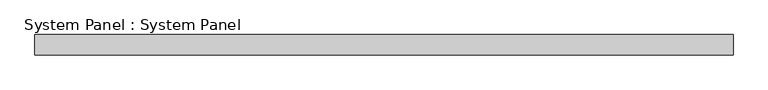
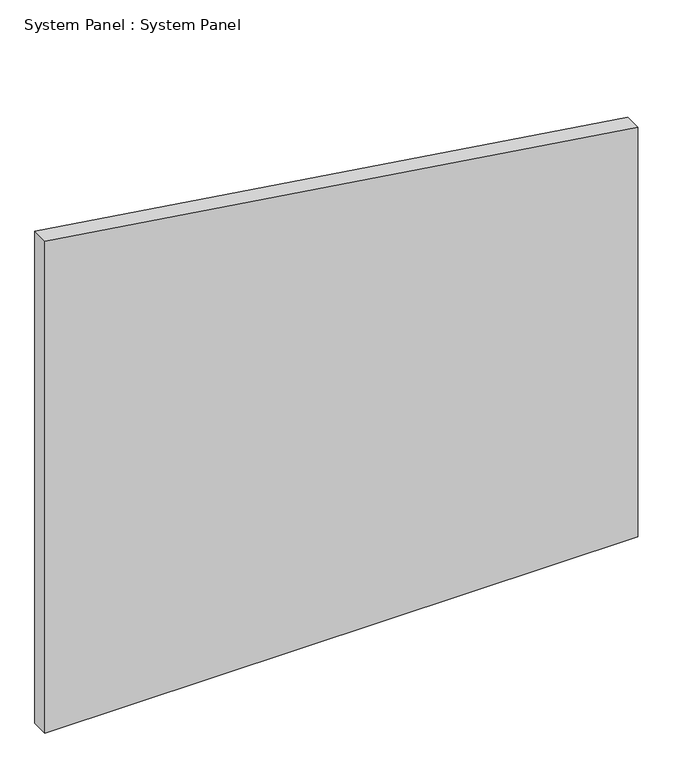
"""IFC4 building model written with IfcOpenShell, lengths in millimetres: plate geometry, System Panel : System Panel."""

from ifc_helpers import new_model, si_unit, frame, origin, place, context, project, spatial, polyline, outline, extrude, source, transform, mapped, element, save


def system_panel_system_panel_3d694e2d(model_context):
    return source(origin(), model_context, "Body", "SweptSolid", [
        extrude(outline(polyline([(0.0, 1735.6576526), (2537.5469636, 1735.6576526), (3046.1828568, -1735.6576526), (0.0, -1735.6576526), (0.0, 1735.6576526)])), frame((0.0, -50.8, 0.0), z_axis=(0.0, 1.0, 0.0), x_axis=(0.0, 0.0, 1.0)), (0.0, 0.0, 1.0), 101.6),
    ])


if __name__ == "__main__":
    model = new_model("IFC4")
    model_context = context("Model", 3, world=origin())
    ifc_project = project(units=[si_unit("LENGTHUNIT", "METRE", prefix="MILLI")], contexts=[model_context])
    site = spatial("IfcSite", under=ifc_project)
    building = spatial("IfcBuilding", under=site)
    placement = place(None, origin())
    system_panel_system_panel_shape = system_panel_system_panel_3d694e2d(model_context)
    element("IfcPlate", 1, ObjectType="System Panel : System Panel", at=placement, inside=building, context=model_context, shape_type="MappedRepresentation", body=[
        mapped(system_panel_system_panel_shape, transform((0.0, 0.0, 0.0), x_axis=(1.0, 0.0, 0.0), y_axis=(0.0, 1.0, 0.0), z_axis=(0.0, 0.0, 1.0))),
    ])
    save(model, "model.ifc")
